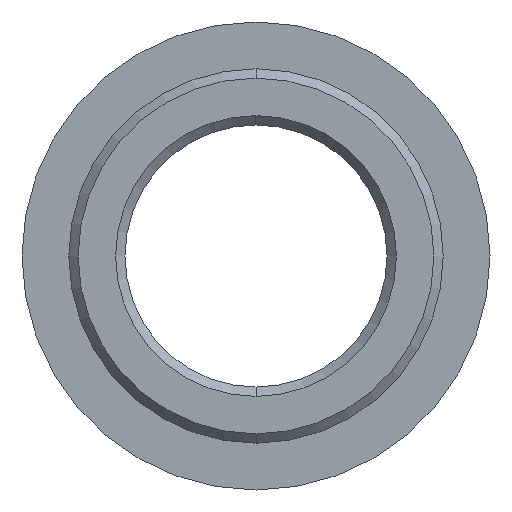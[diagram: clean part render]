
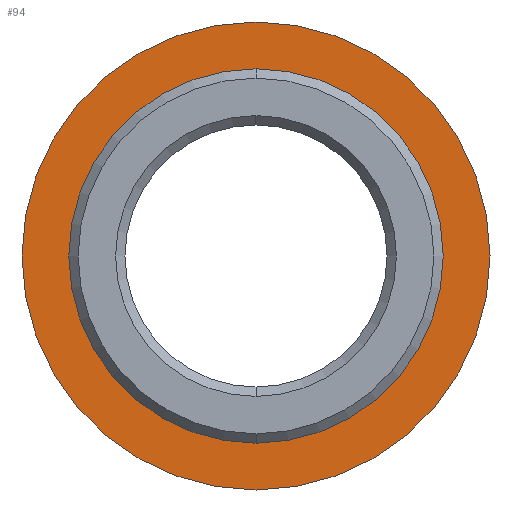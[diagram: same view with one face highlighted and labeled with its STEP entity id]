
A CAD part, left-side view. The second image highlights one B-rep face of the part: STEP entity #94.
In plain terms, the highlighted free-form (B-spline) face has degree [1, 1] with [2, 2] control points.
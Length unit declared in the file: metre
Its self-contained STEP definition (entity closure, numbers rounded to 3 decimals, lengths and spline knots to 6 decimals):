
#94 = ADVANCED_FACE( '', ( #142, #143 ), #144, .F. );
#142 = FACE_BOUND( '', #223, .T. );
#143 = FACE_OUTER_BOUND( '', #224, .T. );
#144 = B_SPLINE_SURFACE_WITH_KNOTS( '', 1, 1, ( ( #225, #226 ), ( #227, #228 ) ), .UNSPECIFIED., .F., .F., .F., ( 2, 2 ), ( 2, 2 ), ( 0., 1. ), ( 0., 1. ), .UNSPECIFIED. );
#223 = EDGE_LOOP( '', ( #383, #384 ) );
#224 = EDGE_LOOP( '', ( #385, #386 ) );
#225 = CARTESIAN_POINT( '', ( 0.009, -0.01265, 0.01265 ) );
#226 = CARTESIAN_POINT( '', ( 0.009, 0.01265, 0.01265 ) );
#227 = CARTESIAN_POINT( '', ( 0.009, -0.01265, -0.01265 ) );
#228 = CARTESIAN_POINT( '', ( 0.009, 0.01265, -0.01265 ) );
#383 = ORIENTED_EDGE( '', *, *, #476, .T. );
#384 = ORIENTED_EDGE( '', *, *, #475, .T. );
#385 = ORIENTED_EDGE( '', *, *, #481, .F. );
#386 = ORIENTED_EDGE( '', *, *, #482, .F. );
#475 = EDGE_CURVE( '', #545, #547, #549, .F. );
#476 = EDGE_CURVE( '', #547, #545, #550, .F. );
#481 = EDGE_CURVE( '', #557, #558, #559, .F. );
#482 = EDGE_CURVE( '', #558, #557, #560, .F. );
#545 = VERTEX_POINT( '', #639 );
#547 = VERTEX_POINT( '', #642 );
#549 = CIRCLE( '', #645, 0.0095 );
#550 = CIRCLE( '', #646, 0.0095 );
#557 = VERTEX_POINT( '', #655 );
#558 = VERTEX_POINT( '', #656 );
#559 = CIRCLE( '', #657, 0.0125 );
#560 = CIRCLE( '', #658, 0.0125 );
#639 = CARTESIAN_POINT( '', ( 0.009, 0., -0.0095 ) );
#642 = CARTESIAN_POINT( '', ( 0.009, 0., 0.0095 ) );
#645 = AXIS2_PLACEMENT_3D( '', #755, #756, #757 );
#646 = AXIS2_PLACEMENT_3D( '', #758, #759, #760 );
#655 = CARTESIAN_POINT( '', ( 0.009, 0., 0.0125 ) );
#656 = CARTESIAN_POINT( '', ( 0.009, 0., -0.0125 ) );
#657 = AXIS2_PLACEMENT_3D( '', #769, #770, #771 );
#658 = AXIS2_PLACEMENT_3D( '', #772, #773, #774 );
#755 = CARTESIAN_POINT( '', ( 0.009, 0., 0. ) );
#756 = DIRECTION( '', ( -1., 0., 0. ) );
#757 = DIRECTION( '', ( 0., 0., 1. ) );
#758 = CARTESIAN_POINT( '', ( 0.009, 0., 0. ) );
#759 = DIRECTION( '', ( -1., 0., 0. ) );
#760 = DIRECTION( '', ( 0., 0., 1. ) );
#769 = CARTESIAN_POINT( '', ( 0.009, 0., 0. ) );
#770 = DIRECTION( '', ( -1., 0., 0. ) );
#771 = DIRECTION( '', ( 0., 0., 1. ) );
#772 = CARTESIAN_POINT( '', ( 0.009, 0., 0. ) );
#773 = DIRECTION( '', ( -1., 0., 0. ) );
#774 = DIRECTION( '', ( 0., 0., 1. ) );
